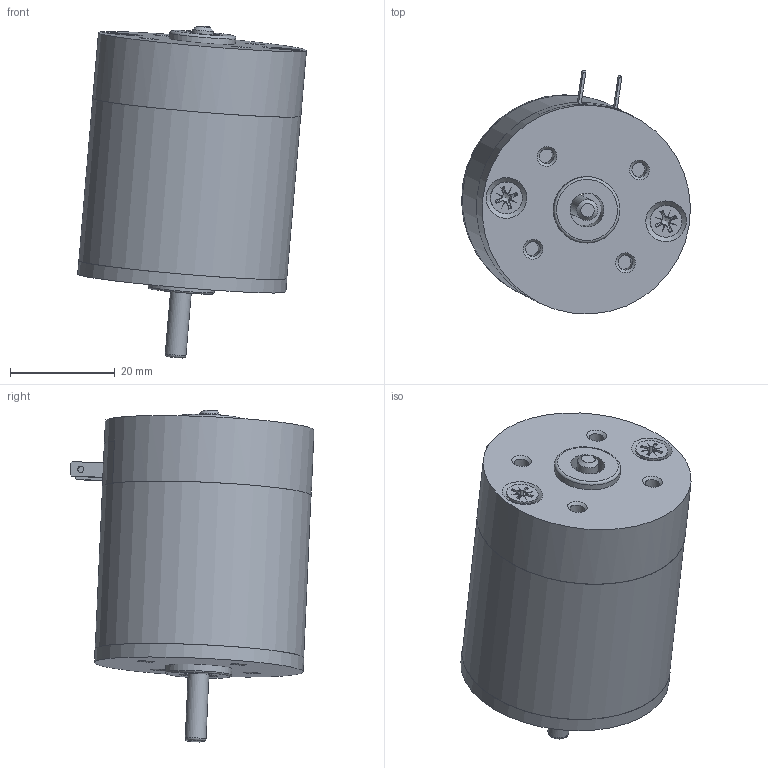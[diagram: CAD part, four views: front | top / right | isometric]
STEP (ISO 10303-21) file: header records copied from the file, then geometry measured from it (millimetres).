
FILE_DESCRIPTION((''),'2;1');
FILE_NAME('D:\연구개발부2팀 1파트\10_진행업무\3D\RM4_SERIES\RM42ㅁBT.stp','2014-06-23T10:38:01',('song'),(''),'Autodesk Inventor 2011','Autodesk Inventor 2011','');
FILE_SCHEMA(('AUTOMOTIVE_DESIGN { 1 0 10303 214 1 1 1 1 }'));
Length unit declared in the file: millimetre
Products named in the file (8): RM42ㅁBT; REAR_HOUSING__ASS'Y_TERMINAL; RM4TYPE_BRUSH_BRAKET_TERMINAL; RM4TYPE_REAR_HOUSING; RM4TYPE_FRONT_HOUSING_; RM4TYPE_PIPE_HOUSING_pi40XL31.2; RM42TYPE_SHAFT; AS 1427 Z - 미터 M3.5 x 5
Assembly tree (7 placements, depth 2):
  RM42ㅁBT
    RM4TYPE_FRONT_HOUSING_
    RM4TYPE_PIPE_HOUSING_pi40XL31.2
    RM42TYPE_SHAFT
    AS 1427 Z - 미터 M3.5 x 5  x2
  REAR_HOUSING__ASS'Y_TERMINAL
    RM4TYPE_BRUSH_BRAKET_TERMINAL
    RM4TYPE_REAR_HOUSING
Bounding box: 43.78 x 46.67 x 63.52 mm (x, y, z)
Volume: 18648 mm3; surface area: 17657.9 mm2
Topology: 7 solids, 7 shells, 158 faces, 389 edges, 250 vertices
Faces by surface type: plane 73, cone 44, cylinder 30, torus 11
Full cylindrical faces by diameter (mm): 1.2 x2, 2.7 x4, 2.8 x4, 3.132 x2, 3.5 x2, 3.7 x2, 3.969 x1, 4 x1, 6.1 x2, 6.5 x1, 6.65 x1, 12.7 x2, 36.5 x1, 40 x3
Entity records: 3606 total; most frequent: CARTESIAN_POINT 771, DIRECTION 562, ORIENTED_EDGE 458, AXIS2_PLACEMENT_3D 236, EDGE_CURVE 229, EDGE_LOOP 196, VERTEX_POINT 173, FACE_OUTER_BOUND 117
